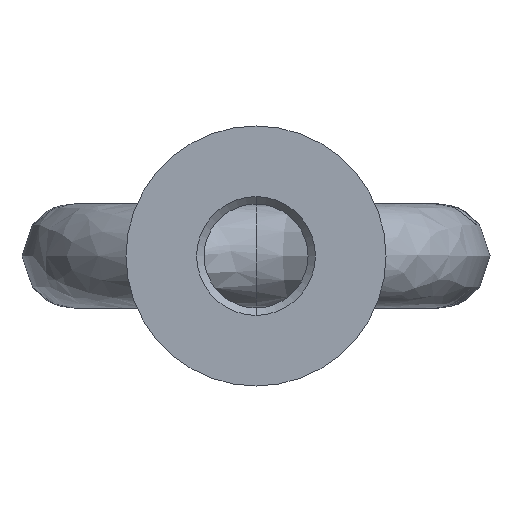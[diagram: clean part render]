
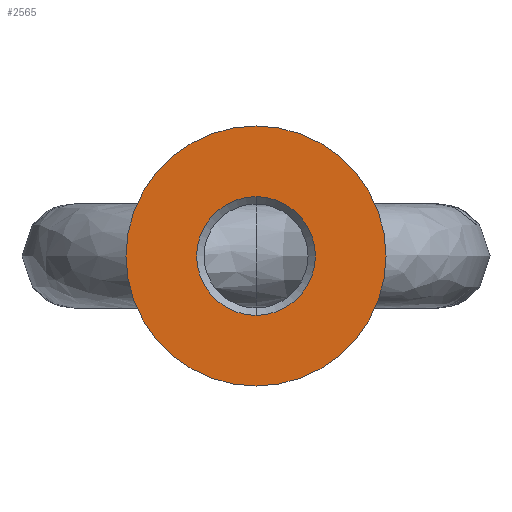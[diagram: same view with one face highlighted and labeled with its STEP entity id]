
A CAD part, front view. The second image highlights one B-rep face of the part: STEP entity #2565.
In plain terms, the highlighted planar face has unit normal (0, -1, 0).
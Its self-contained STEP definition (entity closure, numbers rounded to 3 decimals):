
#187 = ORIENTED_EDGE ( 'NONE', *, *, #1973, .F. ) ;
#197 = DIRECTION ( 'NONE',  ( 0., -1., 0. ) ) ;
#251 = CARTESIAN_POINT ( 'NONE',  ( 0., 0., -6.85 ) ) ;
#391 = VERTEX_POINT ( 'NONE', #251 ) ;
#451 = ORIENTED_EDGE ( 'NONE', *, *, #1423, .F. ) ;
#643 = CIRCLE ( 'NONE', #2977, 15. ) ;
#680 = DIRECTION ( 'NONE',  ( 0., 1., 0. ) ) ;
#769 = AXIS2_PLACEMENT_3D ( 'NONE', #1187, #197, #1153 ) ;
#794 = CIRCLE ( 'NONE', #3081, 6.85 ) ;
#871 = DIRECTION ( 'NONE',  ( 0., 1., 0. ) ) ;
#926 = AXIS2_PLACEMENT_3D ( 'NONE', #2074, #1378, #2821 ) ;
#928 = PLANE ( 'NONE',  #769 ) ;
#1078 = AXIS2_PLACEMENT_3D ( 'NONE', #2348, #871, #2807 ) ;
#1138 = CARTESIAN_POINT ( 'NONE',  ( 0., 0., -15. ) ) ;
#1153 = DIRECTION ( 'NONE',  ( 0., 0., -1. ) ) ;
#1175 = VERTEX_POINT ( 'NONE', #2251 ) ;
#1187 = CARTESIAN_POINT ( 'NONE',  ( 0., 0., 0. ) ) ;
#1378 = DIRECTION ( 'NONE',  ( 0., 1., 0. ) ) ;
#1423 = EDGE_CURVE ( 'NONE', #1834, #2535, #1483, .T. ) ;
#1483 = CIRCLE ( 'NONE', #926, 15. ) ;
#1510 = EDGE_CURVE ( 'NONE', #391, #1175, #2035, .T. ) ;
#1564 = CARTESIAN_POINT ( 'NONE',  ( 0., 0., 0. ) ) ;
#1601 = CARTESIAN_POINT ( 'NONE',  ( 0., 0., 0. ) ) ;
#1646 = DIRECTION ( 'NONE',  ( 0., 0., -1. ) ) ;
#1655 = EDGE_CURVE ( 'NONE', #1175, #391, #794, .T. ) ;
#1834 = VERTEX_POINT ( 'NONE', #2184 ) ;
#1878 = ORIENTED_EDGE ( 'NONE', *, *, #1510, .T. ) ;
#1973 = EDGE_CURVE ( 'NONE', #2535, #1834, #643, .T. ) ;
#2035 = CIRCLE ( 'NONE', #1078, 6.85 ) ;
#2037 = DIRECTION ( 'NONE',  ( 0., 1., 0. ) ) ;
#2074 = CARTESIAN_POINT ( 'NONE',  ( 0., 0., 0. ) ) ;
#2184 = CARTESIAN_POINT ( 'NONE',  ( 0., 0., 15. ) ) ;
#2237 = ORIENTED_EDGE ( 'NONE', *, *, #1655, .T. ) ;
#2251 = CARTESIAN_POINT ( 'NONE',  ( 0., 0., 6.85 ) ) ;
#2348 = CARTESIAN_POINT ( 'NONE',  ( 0., 0., 0. ) ) ;
#2535 = VERTEX_POINT ( 'NONE', #1138 ) ;
#2565 = ADVANCED_FACE ( 'NONE', ( #2846, #2623 ), #928, .T. ) ;
#2623 = FACE_OUTER_BOUND ( 'NONE', #3064, .T. ) ;
#2647 = EDGE_LOOP ( 'NONE', ( #1878, #2237 ) ) ;
#2803 = DIRECTION ( 'NONE',  ( 0., 0., 1. ) ) ;
#2807 = DIRECTION ( 'NONE',  ( 0., 0., -1. ) ) ;
#2821 = DIRECTION ( 'NONE',  ( 0., 0., 1. ) ) ;
#2846 = FACE_BOUND ( 'NONE', #2647, .T. ) ;
#2977 = AXIS2_PLACEMENT_3D ( 'NONE', #1564, #2037, #2803 ) ;
#3064 = EDGE_LOOP ( 'NONE', ( #187, #451 ) ) ;
#3081 = AXIS2_PLACEMENT_3D ( 'NONE', #1601, #680, #1646 ) ;
